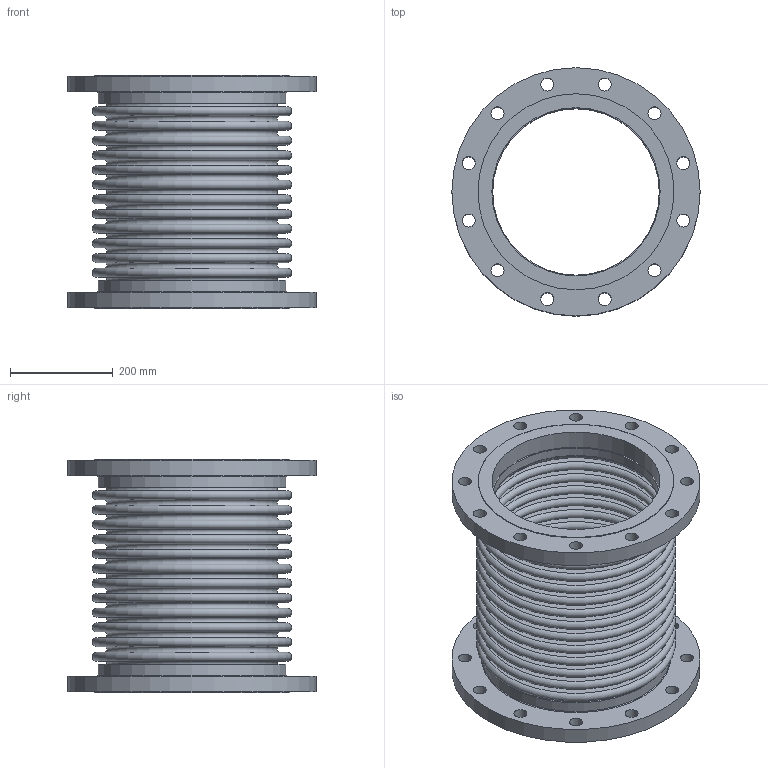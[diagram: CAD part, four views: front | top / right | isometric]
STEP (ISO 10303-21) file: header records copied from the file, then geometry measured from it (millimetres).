
FILE_DESCRIPTION(/* description */ ('EXPANSION JOINT,SINGLE, FLANGED ENDS,12 INCH NOMINAL','CAx-IF Rec.Pracs.---Representation and Presentation of Product Manufacturing Information (PMI)---4.0---2014-10-13'),/* implementation_level */ '2;1');
FILE_NAME(/* name */ 'US-12-12-300L-FLANGED ENDS.stp',/* time_stamp */ '2026-07-31T17:20:44-05:00',/* author */ ('Guadalupe'),/* organization */ (''),/* preprocessor_version */ 'ST-DEVELOPER v20.1',/* originating_system */ 'Autodesk Inventor 2026',/* authorisation */ '');
FILE_SCHEMA (('AP242_MANAGED_MODEL_BASED_3D_ENGINEERING_MIM_LF { 1 0 10303 442 2 1 4 }'));
Length unit declared in the file: inch
Products named in the file (3): 12-300L; 12-300L-02; 12-300L-01
Assembly tree (3 placements, depth 2):
  12-300L
    12-300L-02  x2
    12-300L-01
Bounding box: 482.6 x 482.6 x 453.64 mm (x, y, z)
Volume: 9810248.7 mm3; surface area: 2762782.7 mm2
Topology: 5 solids, 5 shells, 152 faces, 270 edges, 180 vertices
Faces by surface type: plane 62, torus 54, cylinder 36
Full cylindrical faces by diameter (mm): 25.4 x24, 323.85 x2, 327.152 x2, 329.946 x2, 365.252 x2, 381 x2, 482.6 x2
Entity records: 3450 total; most frequent: DIRECTION 710, CARTESIAN_POINT 513, ORIENTED_EDGE 432, AXIS2_PLACEMENT_3D 345, EDGE_CURVE 216, EDGE_LOOP 212, CIRCLE 196, VERTEX_POINT 144
